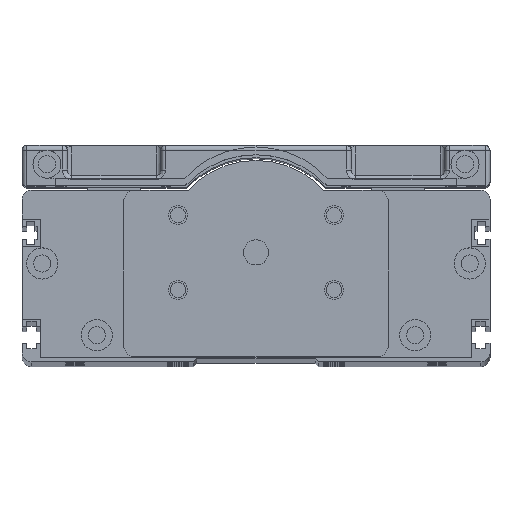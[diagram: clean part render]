
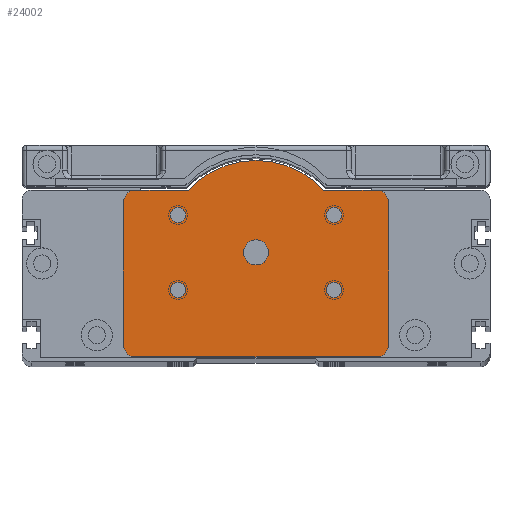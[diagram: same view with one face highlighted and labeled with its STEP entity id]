
A CAD part, top view. The second image highlights one B-rep face of the part: STEP entity #24002.
In plain terms, the highlighted planar face has unit normal (0, 0, 1).
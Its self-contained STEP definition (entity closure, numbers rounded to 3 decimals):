
#22644=CARTESIAN_POINT('',(38.5,49.5,29.));
#22645=DIRECTION('',(0.,0.,1.));
#22646=DIRECTION('',(1.,0.,0.));
#22647=AXIS2_PLACEMENT_3D('',#22644,#22645,#22646);
#22653=CARTESIAN_POINT('',(38.5,4.,29.));
#22654=DIRECTION('',(0.,0.,1.));
#22655=DIRECTION('',(0.,-1.,0.));
#22656=AXIS2_PLACEMENT_3D('',#22653,#22654,#22655);
#22805=CARTESIAN_POINT('',(-38.5,49.5,29.));
#22806=DIRECTION('',(0.,0.,1.));
#22807=DIRECTION('',(0.,1.,0.));
#22808=AXIS2_PLACEMENT_3D('',#22805,#22806,#22807);
#22819=DIRECTION('',(0.,1.,0.));
#22820=VECTOR('',#22819,45.5);
#22821=CARTESIAN_POINT('',(42.5,4.,29.));
#22822=LINE('',#22821,#22820);
#22823=DIRECTION('',(1.,0.,0.));
#22824=VECTOR('',#22823,77.);
#22825=CARTESIAN_POINT('',(-38.5,0.,29.));
#22826=LINE('',#22825,#22824);
#22827=DIRECTION('',(0.,1.,0.));
#22828=VECTOR('',#22827,45.5);
#22829=CARTESIAN_POINT('',(-42.5,4.,29.));
#22830=LINE('',#22829,#22828);
#22831=DIRECTION('',(-1.,0.,0.));
#22832=VECTOR('',#22831,16.815);
#22833=CARTESIAN_POINT('',(-21.685,53.5,29.));
#22834=LINE('',#22833,#22832);
#22835=CARTESIAN_POINT('',(0.,33.5,29.));
#22836=DIRECTION('',(0.,0.,1.));
#22837=DIRECTION('',(0.735,0.678,0.));
#22838=AXIS2_PLACEMENT_3D('',#22835,#22836,#22837);
#22840=DIRECTION('',(-1.,0.,0.));
#22841=VECTOR('',#22840,16.815);
#22842=CARTESIAN_POINT('',(38.5,53.5,29.));
#22843=LINE('',#22842,#22841);
#22844=CARTESIAN_POINT('',(0.,33.5,29.));
#22845=DIRECTION('',(0.,0.,1.));
#22846=DIRECTION('',(1.,0.,0.));
#22847=AXIS2_PLACEMENT_3D('',#22844,#22845,#22846);
#22849=CARTESIAN_POINT('',(0.,33.5,29.));
#22850=DIRECTION('',(0.,0.,1.));
#22851=DIRECTION('',(-1.,0.,0.));
#22852=AXIS2_PLACEMENT_3D('',#22849,#22850,#22851);
#22854=CARTESIAN_POINT('',(25.,45.5,29.));
#22855=DIRECTION('',(0.,0.,-1.));
#22856=DIRECTION('',(-1.,0.,0.));
#22857=AXIS2_PLACEMENT_3D('',#22854,#22855,#22856);
#22859=CARTESIAN_POINT('',(25.,45.5,29.));
#22860=DIRECTION('',(0.,0.,-1.));
#22861=DIRECTION('',(1.,0.,0.));
#22862=AXIS2_PLACEMENT_3D('',#22859,#22860,#22861);
#22864=CARTESIAN_POINT('',(25.,21.5,29.));
#22865=DIRECTION('',(0.,0.,1.));
#22866=DIRECTION('',(-1.,0.,0.));
#22867=AXIS2_PLACEMENT_3D('',#22864,#22865,#22866);
#22869=CARTESIAN_POINT('',(25.,21.5,29.));
#22870=DIRECTION('',(0.,0.,1.));
#22871=DIRECTION('',(1.,0.,0.));
#22872=AXIS2_PLACEMENT_3D('',#22869,#22870,#22871);
#22874=CARTESIAN_POINT('',(-25.,45.5,29.));
#22875=DIRECTION('',(0.,0.,1.));
#22876=DIRECTION('',(1.,0.,0.));
#22877=AXIS2_PLACEMENT_3D('',#22874,#22875,#22876);
#22879=CARTESIAN_POINT('',(-25.,45.5,29.));
#22880=DIRECTION('',(0.,0.,1.));
#22881=DIRECTION('',(-1.,0.,0.));
#22882=AXIS2_PLACEMENT_3D('',#22879,#22880,#22881);
#22884=CARTESIAN_POINT('',(-25.,21.5,29.));
#22885=DIRECTION('',(0.,0.,-1.));
#22886=DIRECTION('',(1.,0.,0.));
#22887=AXIS2_PLACEMENT_3D('',#22884,#22885,#22886);
#22889=CARTESIAN_POINT('',(-25.,21.5,29.));
#22890=DIRECTION('',(0.,0.,-1.));
#22891=DIRECTION('',(-1.,0.,0.));
#22892=AXIS2_PLACEMENT_3D('',#22889,#22890,#22891);
#22907=CARTESIAN_POINT('',(-38.5,4.,29.));
#22908=DIRECTION('',(0.,0.,1.));
#22909=DIRECTION('',(-1.,0.,0.));
#22910=AXIS2_PLACEMENT_3D('',#22907,#22908,#22909);
#23136=CARTESIAN_POINT('',(21.685,53.5,29.));
#23137=CARTESIAN_POINT('',(-21.685,53.5,29.));
#23138=VERTEX_POINT('',#23136);
#23139=VERTEX_POINT('',#23137);
#23184=CARTESIAN_POINT('',(38.5,53.5,29.));
#23186=VERTEX_POINT('',#23184);
#23188=CARTESIAN_POINT('',(42.5,49.5,29.));
#23190=VERTEX_POINT('',#23188);
#23193=CARTESIAN_POINT('',(38.5,0.,29.));
#23195=VERTEX_POINT('',#23193);
#23196=CARTESIAN_POINT('',(42.5,4.,29.));
#23197=VERTEX_POINT('',#23196);
#23201=CARTESIAN_POINT('',(-38.5,53.5,29.));
#23203=VERTEX_POINT('',#23201);
#23204=CARTESIAN_POINT('',(-42.5,49.5,29.));
#23205=VERTEX_POINT('',#23204);
#23208=CARTESIAN_POINT('',(-38.5,0.,29.));
#23210=VERTEX_POINT('',#23208);
#23212=CARTESIAN_POINT('',(-42.5,4.,29.));
#23214=VERTEX_POINT('',#23212);
#23224=CARTESIAN_POINT('',(22.5,45.5,29.));
#23225=CARTESIAN_POINT('',(27.5,45.5,29.));
#23226=VERTEX_POINT('',#23224);
#23227=VERTEX_POINT('',#23225);
#23232=CARTESIAN_POINT('',(22.5,21.5,29.));
#23233=CARTESIAN_POINT('',(27.5,21.5,29.));
#23234=VERTEX_POINT('',#23232);
#23235=VERTEX_POINT('',#23233);
#23240=CARTESIAN_POINT('',(-22.5,45.5,29.));
#23241=CARTESIAN_POINT('',(-27.5,45.5,29.));
#23242=VERTEX_POINT('',#23240);
#23243=VERTEX_POINT('',#23241);
#23248=CARTESIAN_POINT('',(-22.5,21.5,29.));
#23249=CARTESIAN_POINT('',(-27.5,21.5,29.));
#23250=VERTEX_POINT('',#23248);
#23251=VERTEX_POINT('',#23249);
#23372=CARTESIAN_POINT('',(4.,33.5,29.));
#23373=CARTESIAN_POINT('',(-4.,33.5,29.));
#23374=VERTEX_POINT('',#23372);
#23375=VERTEX_POINT('',#23373);
#23952=CARTESIAN_POINT('',(0.,0.,29.));
#23953=DIRECTION('',(0.,0.,1.));
#23954=DIRECTION('',(1.,0.,0.));
#23955=AXIS2_PLACEMENT_3D('',#23952,#23953,#23954);
#23956=PLANE('',#23955);
#23957=ORIENTED_EDGE('',*,*,#23692,.F.);
#23958=ORIENTED_EDGE('',*,*,#23706,.F.);
#23959=ORIENTED_EDGE('',*,*,#23718,.F.);
#23960=ORIENTED_EDGE('',*,*,#23736,.F.);
#23962=ORIENTED_EDGE('',*,*,#23961,.F.);
#23964=ORIENTED_EDGE('',*,*,#23963,.T.);
#23965=ORIENTED_EDGE('',*,*,#23944,.F.);
#23966=ORIENTED_EDGE('',*,*,#23678,.F.);
#23968=ORIENTED_EDGE('',*,*,#23967,.F.);
#23969=ORIENTED_EDGE('',*,*,#23646,.F.);
#23970=EDGE_LOOP('',(#23957,#23958,#23959,#23960,#23962,#23964,#23965,#23966,
#23968,#23969));
#23971=FACE_OUTER_BOUND('',#23970,.F.);
#23973=ORIENTED_EDGE('',*,*,#23972,.T.);
#23975=ORIENTED_EDGE('',*,*,#23974,.T.);
#23976=EDGE_LOOP('',(#23973,#23975));
#23977=FACE_BOUND('',#23976,.F.);
#23979=ORIENTED_EDGE('',*,*,#23978,.F.);
#23981=ORIENTED_EDGE('',*,*,#23980,.F.);
#23982=EDGE_LOOP('',(#23979,#23981));
#23983=FACE_BOUND('',#23982,.F.);
#23985=ORIENTED_EDGE('',*,*,#23984,.T.);
#23987=ORIENTED_EDGE('',*,*,#23986,.T.);
#23988=EDGE_LOOP('',(#23985,#23987));
#23989=FACE_BOUND('',#23988,.F.);
#23991=ORIENTED_EDGE('',*,*,#23990,.T.);
#23993=ORIENTED_EDGE('',*,*,#23992,.T.);
#23994=EDGE_LOOP('',(#23991,#23993));
#23995=FACE_BOUND('',#23994,.F.);
#23997=ORIENTED_EDGE('',*,*,#23996,.F.);
#23999=ORIENTED_EDGE('',*,*,#23998,.F.);
#24000=EDGE_LOOP('',(#23997,#23999));
#24001=FACE_BOUND('',#24000,.F.);
#24002=ADVANCED_FACE('',(#23971,#23977,#23983,#23989,#23995,#24001),#23956,.T.);
#22648=CIRCLE('',#22647,4.);
#22657=CIRCLE('',#22656,4.);
#22809=CIRCLE('',#22808,4.);
#22839=CIRCLE('',#22838,29.5);
#22848=CIRCLE('',#22847,4.);
#22853=CIRCLE('',#22852,4.);
#22858=CIRCLE('',#22857,2.5);
#22863=CIRCLE('',#22862,2.5);
#22868=CIRCLE('',#22867,2.5);
#22873=CIRCLE('',#22872,2.5);
#22878=CIRCLE('',#22877,2.5);
#22883=CIRCLE('',#22882,2.5);
#22888=CIRCLE('',#22887,2.5);
#22893=CIRCLE('',#22892,2.5);
#22911=CIRCLE('',#22910,4.);
#23646=EDGE_CURVE('',#23186,#23138,#22843,.T.);
#23678=EDGE_CURVE('',#23139,#23203,#22834,.T.);
#23692=EDGE_CURVE('',#23190,#23186,#22648,.T.);
#23706=EDGE_CURVE('',#23197,#23190,#22822,.T.);
#23718=EDGE_CURVE('',#23195,#23197,#22657,.T.);
#23736=EDGE_CURVE('',#23210,#23195,#22826,.T.);
#23944=EDGE_CURVE('',#23203,#23205,#22809,.T.);
#23961=EDGE_CURVE('',#23214,#23210,#22911,.T.);
#23963=EDGE_CURVE('',#23214,#23205,#22830,.T.);
#23967=EDGE_CURVE('',#23138,#23139,#22839,.T.);
#23972=EDGE_CURVE('',#23374,#23375,#22848,.T.);
#23974=EDGE_CURVE('',#23375,#23374,#22853,.T.);
#23978=EDGE_CURVE('',#23226,#23227,#22858,.T.);
#23980=EDGE_CURVE('',#23227,#23226,#22863,.T.);
#23984=EDGE_CURVE('',#23234,#23235,#22868,.T.);
#23986=EDGE_CURVE('',#23235,#23234,#22873,.T.);
#23990=EDGE_CURVE('',#23242,#23243,#22878,.T.);
#23992=EDGE_CURVE('',#23243,#23242,#22883,.T.);
#23996=EDGE_CURVE('',#23250,#23251,#22888,.T.);
#23998=EDGE_CURVE('',#23251,#23250,#22893,.T.);
